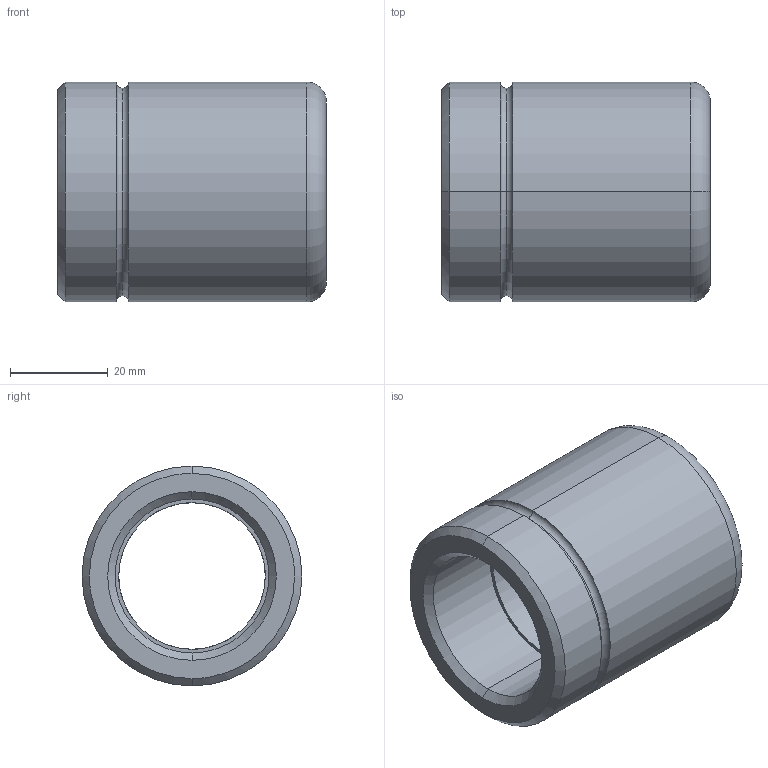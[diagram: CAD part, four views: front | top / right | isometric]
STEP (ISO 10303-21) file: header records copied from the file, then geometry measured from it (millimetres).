
FILE_DESCRIPTION(('CATIA V5 STEP Exchange'),'2;1');
FILE_NAME('C:\Users\Utente\Desktop\IO LAVORO\3D X SITO CF\X SITO\3D files 347\347-30 x 55.stp','2021-01-01T10:00:20+00:00',('none'),('none'),'CATIA Version 5 Release 20 GA (IN-10)','CATIA V5 STEP AP203','none');
FILE_SCHEMA(('CONFIG_CONTROL_DESIGN'));
Length unit declared in the file: millimetre
Products named in the file (1): 347-30 x 55
Bounding box: 55 x 45 x 45 mm (x, y, z)
Volume: 45849.3 mm3; surface area: 14681.8 mm2
Topology: 1 solids, 1 shells, 29 faces, 86 edges, 60 vertices
Faces by surface type: torus 12, cylinder 10, cone 4, plane 3
Entity records: 1154 total; most frequent: CARTESIAN_POINT 344, ORIENTED_EDGE 172, DIRECTION 132, AXIS2_PLACEMENT_3D 90, EDGE_CURVE 86, CIRCLE 60, VERTEX_POINT 60, EDGE_LOOP 32
